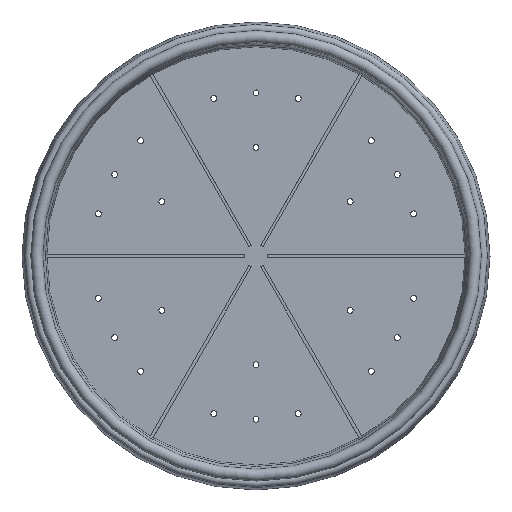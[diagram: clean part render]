
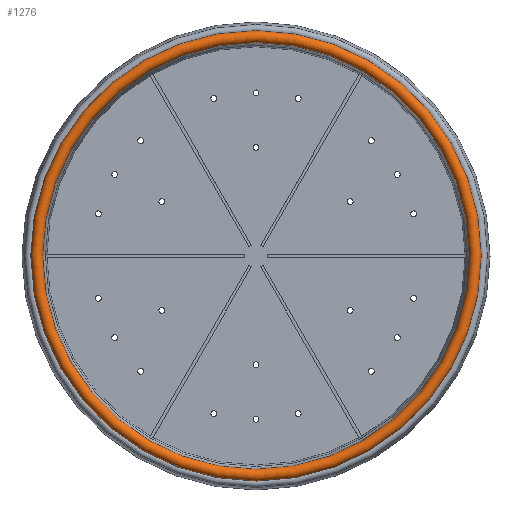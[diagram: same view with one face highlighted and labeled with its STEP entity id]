
A CAD part, top view. The second image highlights one B-rep face of the part: STEP entity #1276.
In plain terms, the highlighted toroidal (fillet/blend) face has major radius 186.5 mm and minor radius 5 mm.
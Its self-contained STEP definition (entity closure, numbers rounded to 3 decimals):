
#18=TOROIDAL_SURFACE('',#1441,186.5,5.);
#154=FACE_OUTER_BOUND('',#245,.T.);
#245=EDGE_LOOP('',(#1097,#1098,#1099,#1100));
#522=CIRCLE('',#1440,190.33);
#523=CIRCLE('',#1442,181.5);
#524=CIRCLE('',#1443,5.);
#643=VERTEX_POINT('',#2201);
#644=VERTEX_POINT('',#2205);
#810=EDGE_CURVE('',#643,#643,#522,.T.);
#812=EDGE_CURVE('',#644,#644,#523,.T.);
#813=EDGE_CURVE('',#644,#643,#524,.T.);
#1097=ORIENTED_EDGE('',*,*,#812,.F.);
#1098=ORIENTED_EDGE('',*,*,#813,.T.);
#1099=ORIENTED_EDGE('',*,*,#810,.T.);
#1100=ORIENTED_EDGE('',*,*,#813,.F.);
#1276=ADVANCED_FACE('',(#154),#18,.T.);
#1440=AXIS2_PLACEMENT_3D('',#2202,#1821,#1822);
#1441=AXIS2_PLACEMENT_3D('',#2204,#1824,#1825);
#1442=AXIS2_PLACEMENT_3D('',#2206,#1826,#1827);
#1443=AXIS2_PLACEMENT_3D('',#2207,#1828,#1829);
#1821=DIRECTION('center_axis',(0.,0.,1.));
#1822=DIRECTION('ref_axis',(1.,0.,0.));
#1824=DIRECTION('center_axis',(0.,0.,1.));
#1825=DIRECTION('ref_axis',(1.,0.,0.));
#1826=DIRECTION('center_axis',(0.,0.,1.));
#1827=DIRECTION('ref_axis',(1.,0.,0.));
#1828=DIRECTION('center_axis',(0.,-1.,0.));
#1829=DIRECTION('ref_axis',(-1.,0.,0.));
#2201=CARTESIAN_POINT('',(-190.33,0.,91.786));
#2202=CARTESIAN_POINT('Origin',(0.,0.,91.786));
#2204=CARTESIAN_POINT('Origin',(0.,0.,95.));
#2205=CARTESIAN_POINT('',(-181.5,0.,95.));
#2206=CARTESIAN_POINT('Origin',(0.,0.,95.));
#2207=CARTESIAN_POINT('Origin',(-186.5,0.,
95.));
